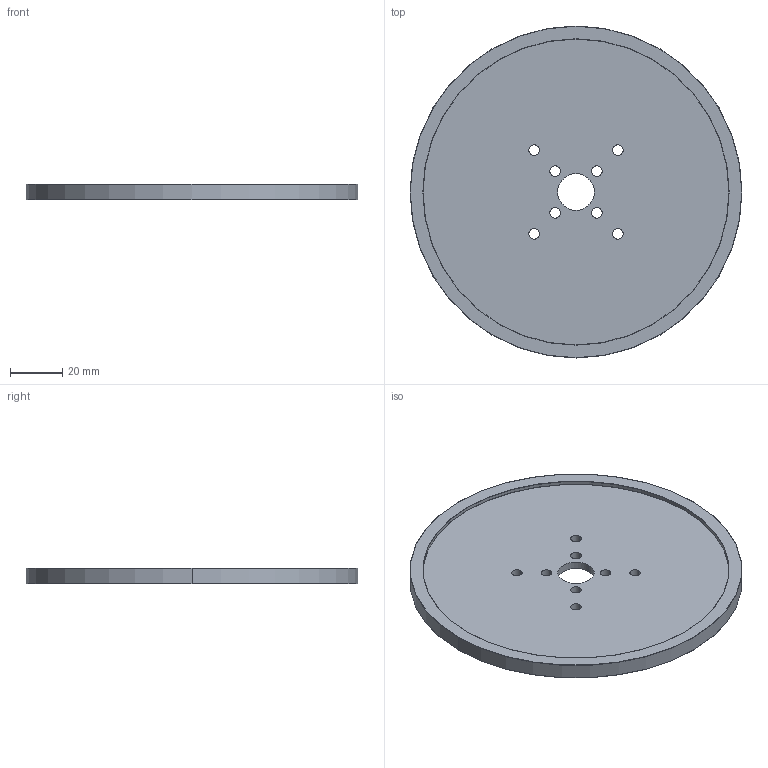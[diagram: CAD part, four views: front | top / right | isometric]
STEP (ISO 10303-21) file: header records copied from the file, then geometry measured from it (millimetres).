
FILE_DESCRIPTION (( 'STEP AP203' ), '1' );
FILE_NAME ('3603-0014-0705 Black Acrylic Wheel.STEP', '2023-04-06T13:52:45', ( '' ), ( '' ), 'SwSTEP 2.0', 'SolidWorks 2016', '' );
FILE_SCHEMA (( 'CONFIG_CONTROL_DESIGN' ));
Length unit declared in the file: millimetre
Products named in the file (1): 3603-0014-0705 Black Acrylic Wheel
Bounding box: 127 x 127 x 6 mm (x, y, z)
Volume: 42976.3 mm3; surface area: 36414.9 mm2
Topology: 2 solids, 2 shells, 46 faces, 108 edges, 68 vertices
Faces by surface type: cylinder 28, torus 12, plane 6
Entity records: 1471 total; most frequent: DIRECTION 282, CARTESIAN_POINT 223, ORIENTED_EDGE 216, AXIS2_PLACEMENT_3D 127, EDGE_CURVE 108, CIRCLE 80, EDGE_LOOP 68, VERTEX_POINT 68
